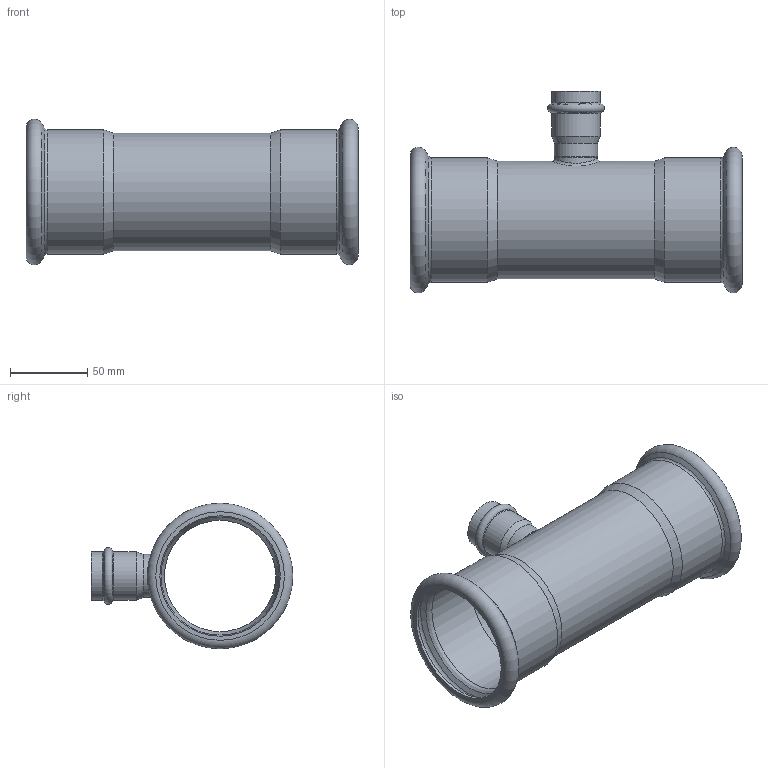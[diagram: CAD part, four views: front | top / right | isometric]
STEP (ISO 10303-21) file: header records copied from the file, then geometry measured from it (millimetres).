
FILE_DESCRIPTION((''),'2;1');
FILE_NAME('G:\Nirosan-Schmiedefeld\Technics\CAD\Bauteile VA\076\69130762876(2).stp','2010-03-31T11:42:53',('herberg'),(''),'Autodesk Inventor 2009','Autodesk Inventor 2009','');
FILE_SCHEMA(('AUTOMOTIVE_DESIGN { 1 0 10303 214 1 1 1 1 }'));
Length unit declared in the file: millimetre
Products named in the file (3): 69130762876(2); LM_69130762876(1); HM_6924328(1)
Assembly tree (2 placements, depth 2):
  69130762876(2)
    LM_69130762876(1)
    HM_6924328(1)
Bounding box: 215 x 130.65 x 94.3 mm (x, y, z)
Volume: 118820.3 mm3; surface area: 122361.9 mm2
Topology: 2 solids, 2 shells, 51 faces, 105 edges, 60 vertices
Faces by surface type: cylinder 16, cone 12, bspline 10, plane 7, torus 6
Full cylindrical faces by diameter (mm): 24 x1, 25 x1, 28 x2, 28.2 x2, 31.2 x2, 72.1 x1, 76.1 x1, 76.6 x2, 78 x2, 80.6 x2
Entity records: 2811 total; most frequent: CARTESIAN_POINT 1879, DIRECTION 190, ORIENTED_EDGE 108, EDGE_LOOP 102, AXIS2_PLACEMENT_3D 95, EDGE_CURVE 54, VERTEX_POINT 52, FACE_OUTER_BOUND 51
